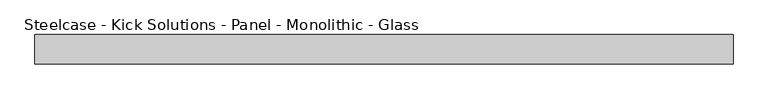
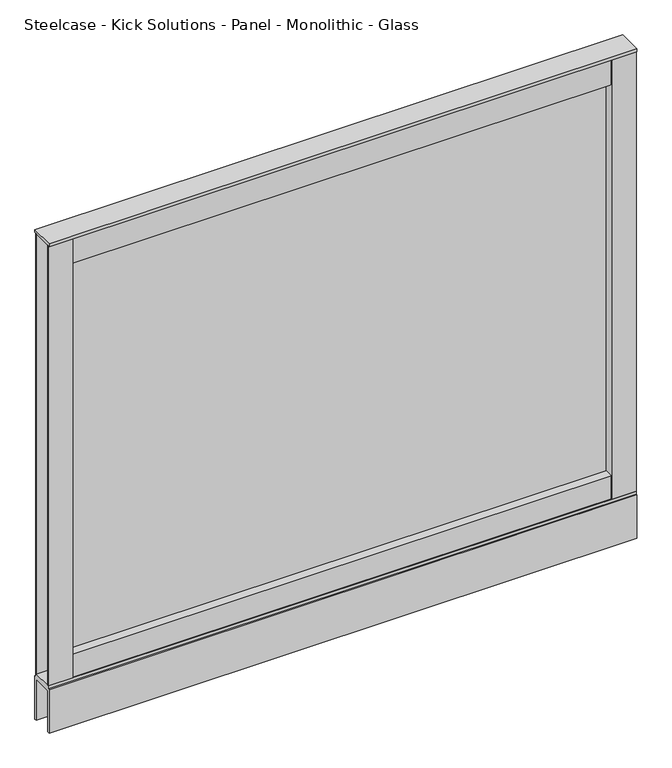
"""IFC4 building model written with IfcOpenShell, lengths in millimetres: furniture geometry, Steelcase - Kick Solutions - Panel - Monolithic - Glass : 42H x 48W."""

import ifcopenshell
import ifcopenshell.guid

model = None  # the IFC model being written
_history = None  # IfcOwnerHistory: only IFC2X3 demands one
_inside = {}  # id of a spatial element -> (the spatial element, [elements in it])
_under = {}  # id of a project, library or spatial element -> (it, [spatial elements below it])
_declared = {}  # id of a project -> (the project, [libraries it declares])
_typed = {}  # id of a type object -> (the type object, [elements of that type])
_made_of = {}  # id of a material, layer set ... -> (it, [elements and type objects made of it])


def new_model(schema):
    """Start an empty IFC model of exactly this schema.

    Asked for "IFC4X3", IfcOpenShell would pick the latest addendum, in which some entities
    have other attributes; the version numbers below select the first issue.
    IFC2X3 requires an IfcOwnerHistory on every rooted entity: one is made here for all.
    """
    global model, _history
    if schema == "IFC4X3":
        model = ifcopenshell.file(schema_version=(4, 3, 0, 0))
    else:
        model = ifcopenshell.file(schema=schema)
    _inside.clear()
    _under.clear()
    _declared.clear()
    _typed.clear()
    _made_of.clear()
    _history = None
    if model.schema == "IFC2X3":
        org = make("IfcOrganization", Name="unknown")
        user = make(
            "IfcPersonAndOrganization",
            ThePerson=make("IfcPerson", FamilyName="unknown"),
            TheOrganization=org,
        )
        app = make(
            "IfcApplication",
            ApplicationDeveloper=org,
            Version="unknown",
            ApplicationFullName="unknown",
            ApplicationIdentifier="unknown",
        )
        _history = make(
            "IfcOwnerHistory",
            OwningUser=user,
            OwningApplication=app,
            ChangeAction="ADDED",
            CreationDate=0,
        )
    return model


def make(cls, **values):
    """One entity of the class cls with the attributes given. An attribute that is None is left unset."""
    return model.create_entity(
        cls, **{name: value for name, value in values.items() if value is not None}
    )


def rooted(cls, **values):
    """An entity with a GlobalId (a new one), such as an element, a storey or a relation."""
    return make(cls, GlobalId=ifcopenshell.guid.new(), OwnerHistory=_history, **values)


def si_unit(unit_type, name, prefix=None):
    """IfcSIUnit, for example si_unit("LENGTHUNIT", "METRE", prefix="MILLI")."""
    return make("IfcSIUnit", UnitType=unit_type, Prefix=prefix, Name=name)


def assignment(units):
    """IfcUnitAssignment: the units of a project."""
    return None if units is None else make("IfcUnitAssignment", Units=units)


def point(xyz):
    """IfcCartesianPoint."""
    return None if xyz is None else make("IfcCartesianPoint", Coordinates=xyz)


def direction(xyz):
    """IfcDirection."""
    return None if xyz is None else make("IfcDirection", DirectionRatios=xyz)


def frame(location, z_axis=None, x_axis=None):
    """IfcAxis2Placement3D, a coordinate frame: its origin and axes. An axis left out is left unset."""
    return make(
        "IfcAxis2Placement3D",
        Location=point(location),
        Axis=direction(z_axis),
        RefDirection=direction(x_axis),
    )


def origin():
    """The frame at (0, 0, 0) with its axes left unset."""
    return frame((0.0, 0.0, 0.0))


def place(relative_to, where):
    """IfcLocalPlacement: puts the frame where relative to a parent placement (None: the world)."""
    return make(
        "IfcLocalPlacement", PlacementRelTo=relative_to, RelativePlacement=where
    )


def context(
    kind, dimensions, precision=None, world=None, true_north=None, identifier=None
):
    """IfcGeometricRepresentationContext, for example the 3D "Model" context."""
    return make(
        "IfcGeometricRepresentationContext",
        ContextIdentifier=identifier,
        ContextType=kind,
        CoordinateSpaceDimension=dimensions,
        Precision=precision,
        WorldCoordinateSystem=world,
        TrueNorth=true_north,
    )


def project(units=None, contexts=None):
    """IfcProject with its units and contexts."""
    return rooted(
        "IfcProject",
        Name="project",
        RepresentationContexts=contexts,
        UnitsInContext=assignment(units),
    )


def spatial(cls, under=None, at=None, **own):
    """A site, building, storey or space (cls), placed at a placement, below another one or the project."""
    s = rooted(cls, ObjectPlacement=at, **own)
    if under is not None:
        _under.setdefault(under.id(), (under, []))[1].append(s)
    return s


def polyline(points):
    """IfcPolyline through the points."""
    return make("IfcPolyline", Points=[point(p) for p in points])


def outline(outer, holes=None, kind="AREA"):
    """IfcArbitraryClosedProfileDef: a profile drawn as a closed curve; with holes, ...WithVoids."""
    if holes is None:
        return make("IfcArbitraryClosedProfileDef", ProfileType=kind, OuterCurve=outer)
    return make(
        "IfcArbitraryProfileDefWithVoids",
        ProfileType=kind,
        OuterCurve=outer,
        InnerCurves=holes,
    )


def extrude(swept, where, along, depth):
    """IfcExtrudedAreaSolid: the profile swept, set in the frame where, extruded along a direction by depth."""
    return make(
        "IfcExtrudedAreaSolid",
        SweptArea=swept,
        Position=where,
        ExtrudedDirection=direction(along),
        Depth=depth,
    )


def shape(context_of_items, identifier, shape_type, items):
    """IfcShapeRepresentation: the items that make up one representation, for example the "Body"."""
    return make(
        "IfcShapeRepresentation",
        ContextOfItems=context_of_items,
        RepresentationIdentifier=identifier,
        RepresentationType=shape_type,
        Items=items,
    )


def source(mapping_origin, context_of_items, identifier, shape_type, items):
    """IfcRepresentationMap: a shape defined once, which mapped items show again and again."""
    return make(
        "IfcRepresentationMap",
        MappingOrigin=mapping_origin,
        MappedRepresentation=shape(context_of_items, identifier, shape_type, items),
    )


def transform(
    local_origin,
    x_axis=None,
    y_axis=None,
    z_axis=None,
    scale=None,
    scale2=None,
    scale3=None,
    uniform=True,
):
    """IfcCartesianTransformationOperator3D, or its non-uniform kind. x_axis, y_axis, z_axis: its Axis1, 2, 3."""
    if uniform:
        return make(
            "IfcCartesianTransformationOperator3D",
            Axis1=direction(x_axis),
            Axis2=direction(y_axis),
            LocalOrigin=point(local_origin),
            Scale=scale,
            Axis3=direction(z_axis),
        )
    return make(
        "IfcCartesianTransformationOperator3DnonUniform",
        Axis1=direction(x_axis),
        Axis2=direction(y_axis),
        LocalOrigin=point(local_origin),
        Scale=scale,
        Axis3=direction(z_axis),
        Scale2=scale2,
        Scale3=scale3,
    )


def mapped(mapping_source, mapping_target):
    """IfcMappedItem: shows the shape of a source again, moved by a transform."""
    return make(
        "IfcMappedItem", MappingSource=mapping_source, MappingTarget=mapping_target
    )


def made_of(thing, what):
    """Note that an element or type object is made of a material, layer set ...; save() writes the relation."""
    if what is not None:
        _made_of.setdefault(what.id(), (what, []))[1].append(thing)
    return thing


def element(
    cls,
    number,
    at=None,
    inside=None,
    cuts=None,
    type_object=None,
    material=None,
    context=None,
    identifier="Body",
    shape_type=None,
    held_by="IfcProductDefinitionShape",
    body=None,
    shapes=None,
    **own,
):
    """One element of the class cls, such as IfcWall. Its Tag is "e" and its number.

    at: its placement. inside: the storey or other place that contains it. cuts: it is an
    opening in that element (IfcRelVoidsElement). A single representation is given by context,
    identifier, shape_type and body (its items); several are given by shapes. held_by: the class
    of the entity that holds the representations. save() writes the other relations.
    """
    e = rooted(cls, Tag="e%d" % number, ObjectPlacement=at, **own)
    if body is not None:
        shapes = [shape(context, identifier, shape_type, body)]
    if shapes is not None:
        e.Representation = make(held_by, Representations=shapes)
    if inside is not None:
        _inside.setdefault(inside.id(), (inside, []))[1].append(e)
    if cuts is not None:
        rooted(
            "IfcRelVoidsElement", RelatingBuildingElement=cuts, RelatedOpeningElement=e
        )
    if type_object is not None:
        _typed.setdefault(type_object.id(), (type_object, []))[1].append(e)
    return made_of(e, material)


def aggregate(whole, parts):
    """IfcRelAggregates: a whole, such as a stair, and the parts it consists of."""
    return rooted("IfcRelAggregates", RelatingObject=whole, RelatedObjects=parts)


def save(model, path):
    """Write the relations noted so far, then the file.

    IfcRelAggregates (storeys below a building ...), IfcRelContainedInSpatialStructure (elements
    in a storey), IfcRelDefinesByType, IfcRelAssociatesMaterial and IfcRelDeclares: one each for
    every whole, place, type object, material and project.
    """
    for whole, parts in _under.values():
        aggregate(whole, parts)
    for where, things in _inside.values():
        rooted(
            "IfcRelContainedInSpatialStructure",
            RelatedElements=things,
            RelatingStructure=where,
        )
    for kind, things in _typed.values():
        rooted("IfcRelDefinesByType", RelatedObjects=things, RelatingType=kind)
    for what, things in _made_of.values():
        rooted("IfcRelAssociatesMaterial", RelatedObjects=things, RelatingMaterial=what)
    for by, libraries in _declared.values():
        rooted("IfcRelDeclares", RelatingContext=by, RelatedDefinitions=libraries)
    model.write(path)


def steelcase_kick_solutions_panel_monolithic_glass_a0f3cbb1(model_context):
    return source(origin(), model_context, "Body", "SweptSolid", [
        extrude(outline(polyline([(1168.4006661, -5.08), (1168.4006661, -45.7200015), (50.8006646, -45.7200015), (50.8006646, -5.08), (1168.4006661, -5.08)])), frame((0.0, 0.0, 101.7169049), z_axis=(0.0, 0.0, 1.0), x_axis=(1.0, 0.0, 0.0)), (0.0, 0.0, 1.0), 50.6830951),
        extrude(outline(polyline([(1168.4006661, -5.08), (1168.4006661, -45.7200015), (50.8006646, -45.7200015), (50.8006646, -5.08), (1168.4006661, -5.08)])), frame((0.0, 0.0, 1009.65), z_axis=(0.0, 0.0, 1.0), x_axis=(1.0, 0.0, 0.0)), (0.0, 0.0, 1.0), 57.15),
        extrude(outline(polyline([(50.8006646, -3.1743148), (50.8006646, -47.6243142), (0.0, -47.6243142), (0.0, -45.7200015), (47.7526646, -45.7200015), (47.7526646, -5.08), (0.0, -5.08), (0.0, -3.1743148), (50.8006646, -3.1743148)])), frame((0.0, 0.0, 101.7169049), z_axis=(0.0, 0.0, 1.0), x_axis=(1.0, 0.0, 0.0)), (0.0, 0.0, 1.0), 965.0830951),
        extrude(outline(polyline([(1168.4006661, -3.1743148), (1219.2, -3.1743148), (1219.2, -5.08), (1171.4486661, -5.08), (1171.4486661, -45.7200015), (1219.2, -45.7200015), (1219.2, -47.6243142), (1168.4006661, -47.6243142), (1168.4006661, -3.1743148)])), frame((0.0, 0.0, 101.7169049), z_axis=(0.0, 0.0, 1.0), x_axis=(1.0, 0.0, 0.0)), (0.0, 0.0, 1.0), 965.0830951),
        extrude(outline(polyline([(1168.4006661, -28.422537), (50.8006646, -28.422537), (50.8006646, -25.4), (1168.4006661, -25.4), (1168.4006661, -28.422537)])), frame((0.0, 0.0, 152.4), z_axis=(0.0, 0.0, 1.0), x_axis=(1.0, 0.0, 0.0)), (0.0, 0.0, 1.0), 857.25),
        extrude(outline(polyline([(1219.2, 0.0), (1219.2, -50.8000015), (0.0, -50.8000015), (0.0, 0.0), (1219.2, 0.0)])), frame((0.0, 0.0, 1066.8), z_axis=(0.0, 0.0, 1.0), x_axis=(1.0, 0.0, 0.0)), (0.0, 0.0, 1.0), 6.35),
        extrude(outline(polyline([(0.0, 0.0), (-5.08, 0.0), (-5.08, 90.2869018), (-45.7200015, 90.2869018), (-45.7200015, 0.0), (-50.8000015, 0.0), (-50.8000015, 95.3669018), (-47.6243142, 95.3669018), (-47.6243142, 101.7169049), (-3.1743148, 101.7169049), (-3.1743148, 95.3669018), (0.0, 95.3669018), (0.0, 0.0)])), frame((0.0, 0.0, 0.0), z_axis=(1.0, 0.0, 0.0), x_axis=(0.0, 1.0, 0.0)), (0.0, 0.0, 1.0), 1219.2),
    ])


if __name__ == "__main__":
    model = new_model("IFC4")
    model_context = context("Model", 3, world=origin())
    ifc_project = project(units=[si_unit("LENGTHUNIT", "METRE", prefix="MILLI")], contexts=[model_context])
    site = spatial("IfcSite", under=ifc_project)
    building = spatial("IfcBuilding", under=site)
    placement = place(None, origin())
    steelcase_kick_solutions_panel_monolithic_glass_shape = steelcase_kick_solutions_panel_monolithic_glass_a0f3cbb1(model_context)
    element("IfcFurniture", 1, ObjectType="Steelcase - Kick Solutions - Panel - Monolithic - Glass : 42H x 48W", at=placement, inside=building, context=model_context, shape_type="MappedRepresentation", body=[
        mapped(steelcase_kick_solutions_panel_monolithic_glass_shape, transform((0.0, 0.0, 0.0), x_axis=(1.0, 0.0, 0.0), y_axis=(0.0, 1.0, 0.0), z_axis=(0.0, 0.0, 1.0))),
    ])
    save(model, "model.ifc")
